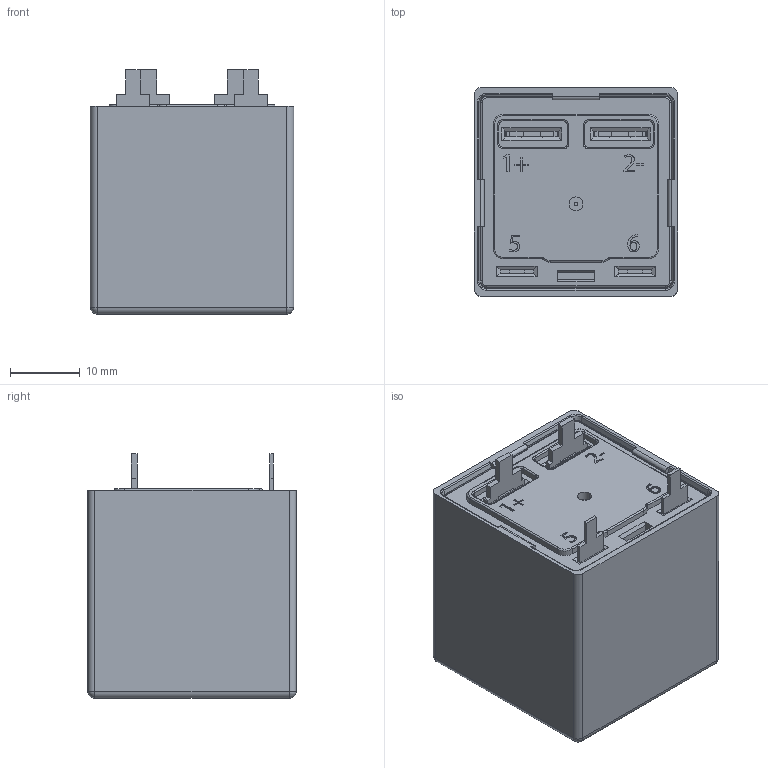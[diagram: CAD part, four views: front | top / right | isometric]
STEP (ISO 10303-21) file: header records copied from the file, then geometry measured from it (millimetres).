
FILE_DESCRIPTION (( 'STEP AP214' ), '1' );
FILE_NAME ('NDZ3X-20D.STEP', '2020-11-12T06:56:56', ( '' ), ( '' ), 'SwSTEP 2.0', 'SolidWorks 2018', '' );
FILE_SCHEMA (( 'AUTOMOTIVE_DESIGN' ));
Length unit declared in the file: millimetre
Products named in the file (1): NDZ3X-20D
Bounding box: 29.2 x 30 x 35.1 mm (x, y, z)
Volume: 7381.4 mm3; surface area: 12483.6 mm2
Topology: 6 solids, 6 shells, 1267 faces, 3306 edges, 2051 vertices
Faces by surface type: plane 620, cylinder 491, torus 89, bspline 39, sphere 24, cone 4
Entity records: 54081 total; most frequent: CARTESIAN_POINT 9273, ORIENTED_EDGE 6556, DIRECTION 6338, EDGE_CURVE 3278, LINE 2182, VECTOR 2182, AXIS2_PLACEMENT_3D 2078, VERTEX_POINT 2051
